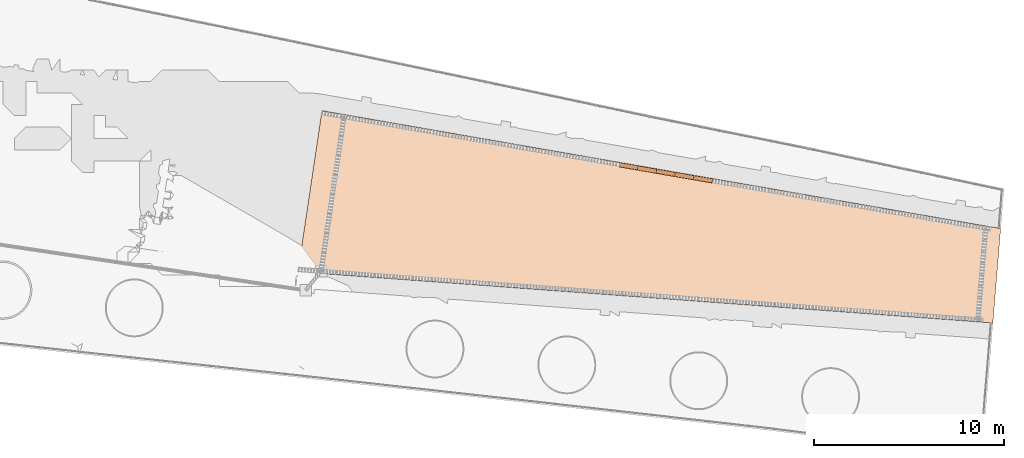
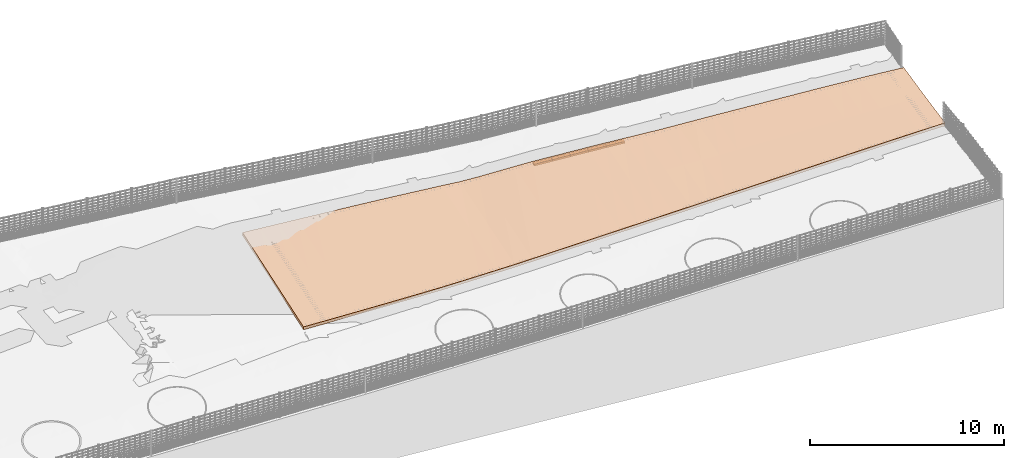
# Not in any storey, part 69 of 72: 5 proxies, 1 geographic element.
"""IFC4 model written with IfcOpenShell, lengths in metres."""

from ifc_helpers import new_model, si_unit, direction, frame, origin_with_axes, place, context, subcontext, project, spatial, polygons, material, element, save


model = new_model("IFC4")

# Units and contexts
model_context = context("Model", 3, precision=1e-05, world=origin_with_axes(), true_north=direction((0.0, 1.0)))
body_context = subcontext(model_context, "Body", "Model", "MODEL_VIEW")
ifc_project = project(units=[si_unit("AREAUNIT", "SQUARE_METRE"), si_unit("VOLUMEUNIT", "CUBIC_METRE"), si_unit("LENGTHUNIT", "METRE")], contexts=[model_context])

# Site
site_placement = place(None, origin_with_axes())
site = spatial("IfcSite", under=ifc_project, at=site_placement, Name="Lares · Rua das Mercês · artigo 4771")

# Geographic element
ifc_material_1 = material(Name="Pavimento rugoso · betão vassourado", Category="paving")
geographic_element_placement = place(site_placement, origin_with_axes())
element("IfcGeographicElement", 1, at=geographic_element_placement, inside=site, material=ifc_material_1, Name="Acesso trapezoidal · 8,60 m no pódio / 5,00 m na rua", ObjectType="Acesso trapezoidal · 8,60 m no pódio / 5,00 m na rua", PredefinedType="USERDEFINED", context=body_context, shape_type="Tessellation", body=[
    polygons([(47.2726756, 7.4551369, 14.6754), (46.6370951, 3.2023687, 14.5034), (48.2651934, 7.3330373, 14.6950979), (47.641404, 3.1285378, 14.5081064), (47.9082561, 11.7079052, 14.8474), (48.8889828, 11.5375368, 14.880832), (49.2577113, 7.2109377, 14.7141288), (48.6457129, 3.0547069, 14.5146605), (49.8697096, 11.3671684, 14.9144106), (50.2502291, 7.088838, 14.7324927), (49.6500219, 2.9808761, 14.5230623), (50.8504364, 11.1968, 14.9494817), (51.242747, 6.9667384, 14.7501895), (50.6543308, 2.9070452, 14.5333117), (51.8311632, 11.0264316, 14.9814926), (52.2352648, 6.8446388, 14.7672194), (51.6586397, 2.8332143, 14.5454088), (52.81189, 10.8560632, 15.0124955), (53.2277827, 6.7225391, 14.7835822), (52.6629486, 2.7593834, 14.5593536), (53.7926168, 10.6856949, 15.0424902), (54.2203005, 6.6004395, 14.8017153), (53.6672575, 2.6855525, 14.575146), (54.7733435, 10.5153265, 15.0714768), (55.2128184, 6.4783398, 14.8244149), (54.6715664, 2.6117216, 14.5927861), (55.7540703, 10.3449581, 15.0994552), (56.2053362, 6.3562402, 14.8550989), (55.6758753, 2.5378907, 14.6282986), (56.7347971, 10.1745897, 15.1193596), (57.1978541, 6.2341406, 14.8857829), (56.6801842, 2.4640598, 14.6654506), (57.7155239, 10.0042213, 15.1392641), (58.1903719, 6.1120409, 14.9164669), (57.6844932, 2.3902289, 14.7070092), (58.6962507, 9.8338529, 15.1591685), (59.1828898, 5.9899413, 14.947151), (58.6888021, 2.316398, 14.7485679), (59.6769775, 9.6634845, 15.1660071), (60.1754076, 5.8678417, 15.0302493), (59.693111, 2.2425671, 14.8057838), (60.6577042, 9.4931162, 15.2273903), (61.1679255, 5.745742, 15.1146175), (60.6974199, 2.1687363, 14.8641032), (61.638431, 9.3227478, 15.3111848), (62.1604433, 5.6236424, 15.1705025), (61.7017288, 2.0949054, 14.9224226), (62.6191578, 9.1523794, 15.3990058), (63.1529612, 5.5015427, 15.2263874), (62.7060377, 2.0210745, 14.980742), (63.5998846, 8.982011, 15.4794087), (64.145479, 5.3794431, 15.2822723), (63.7103466, 1.9472436, 15.0390614), (64.5806114, 8.8116426, 15.5314253), (65.1379969, 5.2573435, 15.3381573), (64.7146555, 1.8734127, 15.0973808), (65.5613382, 8.6412742, 15.583442), (66.1305147, 5.1352438, 15.3940422), (65.7189645, 1.7995818, 15.1557002), (66.5420649, 8.4709059, 15.6354586), (67.1230326, 5.0131442, 15.4499271), (66.7232734, 1.7257509, 15.2140196), (67.5227917, 8.3005375, 15.6806264), (68.1155504, 4.8910446, 15.505812), (67.7275823, 1.65192, 15.272339), (68.5035185, 8.1301691, 15.7192003), (69.1080682, 4.7689449, 15.561697), (68.7318912, 1.5780891, 15.3318854), (69.4842453, 7.9598007, 15.7577742), (70.1005861, 4.6468453, 15.6040598), (69.7362001, 1.5042582, 15.3916386), (70.4649721, 7.7894323, 15.7963481), (71.0931039, 4.5247456, 15.6458906), (70.740509, 1.4304273, 15.4513918), (71.4456989, 7.6190639, 15.8535828), (72.0856218, 4.402646, 15.6911355), (71.7448179, 1.3565965, 15.5074355), (72.4264256, 7.4486956, 15.9152973), (73.0781396, 4.2805464, 15.7447425), (72.7491268, 1.2827656, 15.5651106), (73.4071524, 7.2783272, 15.9732245), (74.0706575, 4.1584467, 15.7983495), (73.7534358, 1.2089347, 15.6230391), (74.3878792, 7.1079588, 16.0274247), (75.0631753, 4.0363471, 15.8519566), (74.7577447, 1.1351038, 15.6809676), (75.368606, 6.9375904, 16.0816249), (76.0556932, 3.9142475, 15.9055636), (75.7620536, 1.0612729, 15.7388962), (76.3493328, 6.767222, 16.1358251), (77.048211, 3.7921478, 15.9591706), (76.7663625, 0.987442, 15.7968247), (77.3300596, 6.5968536, 16.1900253), (78.0407289, 3.6700482, 16.0127777), (77.7706714, 0.9136111, 15.8547533), (78.3107864, 6.4264853, 16.2442255), (79.0332467, 3.5479485, 16.0663847), (78.7749803, 0.8397802, 15.9126818), (79.2915131, 6.2561169, 16.2984257), (80.0257646, 3.4258489, 16.1199917), (79.7792892, 0.7659493, 15.9706103), (80.2722399, 6.0857485, 16.3441265), (81.0182824, 3.3037493, 16.1735987), (80.7835981, 0.6921184, 16.0285389), (81.2529667, 5.9153801, 16.3875319), (82.0108003, 3.1816496, 16.2215866), (81.7879071, 0.6182875, 16.0800639), (82.2336935, 5.7450117, 16.4245337), (82.6933711, 3.0976797, 16.2506754), (82.4785868, 0.5675128, 16.1113058), (82.9081554, 5.6278466, 16.4457879), (83.0033181, 3.05955, 16.2638843), (82.792216, 0.5444567, 16.1254924), (83.2144203, 5.5746433, 16.4554391), (83.4873854, 3.0, 16.2845136), (83.2820339, 0.5084481, 16.1476487), (83.6927368, 5.4915519, 16.4705122), (47.2726756, 7.4551369, 14.4954), (46.6370951, 3.2023687, 14.3234), (48.2651934, 7.3330373, 14.5150979), (47.641404, 3.1285378, 14.3281064), (47.9082561, 11.7079052, 14.6674), (48.8889828, 11.5375368, 14.700832), (49.2577113, 7.2109377, 14.5341288), (48.6457129, 3.0547069, 14.3346605), (49.8697096, 11.3671684, 14.7344106), (50.2502291, 7.088838, 14.5524927), (49.6500219, 2.9808761, 14.3430623), (50.8504364, 11.1968, 14.7694817), (51.242747, 6.9667384, 14.5701895), (50.6543308, 2.9070452, 14.3533117), (51.8311632, 11.0264316, 14.8014926), (52.2352648, 6.8446388, 14.5872194), (51.6586397, 2.8332143, 14.3654088), (52.81189, 10.8560632, 14.8324955), (53.2277827, 6.7225391, 14.6035822), (52.6629486, 2.7593834, 14.3793536), (53.7926168, 10.6856949, 14.8624902), (54.2203005, 6.6004395, 14.6217153), (53.6672575, 2.6855525, 14.395146), (54.7733435, 10.5153265, 14.8914768), (55.2128184, 6.4783398, 14.6444149), (54.6715664, 2.6117216, 14.4127861), (55.7540703, 10.3449581, 14.9194552), (56.2053362, 6.3562402, 14.6750989), (55.6758753, 2.5378907, 14.4482986), (56.7347971, 10.1745897, 14.9393596), (57.1978541, 6.2341406, 14.7057829), (56.6801842, 2.4640598, 14.4854506), (57.7155239, 10.0042213, 14.9592641), (58.1903719, 6.1120409, 14.7364669), (57.6844932, 2.3902289, 14.5270092), (58.6962507, 9.8338529, 14.9791685), (59.1828898, 5.9899413, 14.767151), (58.6888021, 2.316398, 14.5685679), (59.6769775, 9.6634845, 14.9860071), (60.1754076, 5.8678417, 14.8502493), (59.693111, 2.2425671, 14.6257838), (60.6577042, 9.4931162, 15.0473903), (61.1679255, 5.745742, 14.9346175), (60.6974199, 2.1687363, 14.6841032), (61.638431, 9.3227478, 15.1311848), (62.1604433, 5.6236424, 14.9905025), (61.7017288, 2.0949054, 14.7424226), (62.6191578, 9.1523794, 15.2190058), (63.1529612, 5.5015427, 15.0463874), (62.7060377, 2.0210745, 14.800742), (63.5998846, 8.982011, 15.2994087), (64.145479, 5.3794431, 15.1022723), (63.7103466, 1.9472436, 14.8590614), (64.5806114, 8.8116426, 15.3514253), (65.1379969, 5.2573435, 15.1581573), (64.7146555, 1.8734127, 14.9173808), (65.5613382, 8.6412742, 15.403442), (66.1305147, 5.1352438, 15.2140422), (65.7189645, 1.7995818, 14.9757002), (66.5420649, 8.4709059, 15.4554586), (67.1230326, 5.0131442, 15.2699271), (66.7232734, 1.7257509, 15.0340196), (67.5227917, 8.3005375, 15.5006264), (68.1155504, 4.8910446, 15.325812), (67.7275823, 1.65192, 15.092339), (68.5035185, 8.1301691, 15.5392003), (69.1080682, 4.7689449, 15.381697), (68.7318912, 1.5780891, 15.1518854), (69.4842453, 7.9598007, 15.5777742), (70.1005861, 4.6468453, 15.4240598), (69.7362001, 1.5042582, 15.2116386), (70.4649721, 7.7894323, 15.6163481), (71.0931039, 4.5247456, 15.4658906), (70.740509, 1.4304273, 15.2713918), (71.4456989, 7.6190639, 15.6735828), (72.0856218, 4.402646, 15.5111355), (71.7448179, 1.3565965, 15.3274355), (72.4264256, 7.4486956, 15.7352973), (73.0781396, 4.2805464, 15.5647425), (72.7491268, 1.2827656, 15.3851106), (73.4071524, 7.2783272, 15.7932245), (74.0706575, 4.1584467, 15.6183495), (73.7534358, 1.2089347, 15.4430391), (74.3878792, 7.1079588, 15.8474247), (75.0631753, 4.0363471, 15.6719566), (74.7577447, 1.1351038, 15.5009676), (75.368606, 6.9375904, 15.9016249), (76.0556932, 3.9142475, 15.7255636), (75.7620536, 1.0612729, 15.5588962), (76.3493328, 6.767222, 15.9558251), (77.048211, 3.7921478, 15.7791706), (76.7663625, 0.987442, 15.6168247), (77.3300596, 6.5968536, 16.0100253), (78.0407289, 3.6700482, 15.8327777), (77.7706714, 0.9136111, 15.6747533), (78.3107864, 6.4264853, 16.0642255), (79.0332467, 3.5479485, 15.8863847), (78.7749803, 0.8397802, 15.7326818), (79.2915131, 6.2561169, 16.1184257), (80.0257646, 3.4258489, 15.9399917), (79.7792892, 0.7659493, 15.7906103), (80.2722399, 6.0857485, 16.1641265), (81.0182824, 3.3037493, 15.9935987), (80.7835981, 0.6921184, 15.8485389), (81.2529667, 5.9153801, 16.2075319), (82.0108003, 3.1816496, 16.0415866), (81.7879071, 0.6182875, 15.9000639), (82.2336935, 5.7450117, 16.2445337), (82.6933711, 3.0976797, 16.0706754), (82.4785868, 0.5675128, 15.9313058), (82.9081554, 5.6278466, 16.2657879), (83.0033181, 3.05955, 16.0838843), (82.792216, 0.5444567, 15.9454924), (83.2144203, 5.5746433, 16.2754391), (83.4873854, 3.0, 16.1045136), (83.2820339, 0.5084481, 15.9676487), (83.6927368, 5.4915519, 16.2905122)], [[[1, 2, 3]], [[4, 3, 2]], [[1, 6, 5]], [[3, 6, 1]], [[3, 4, 7]], [[8, 7, 4]], [[3, 9, 6]], [[7, 9, 3]], [[7, 8, 10]], [[11, 10, 8]], [[7, 12, 9]], [[10, 12, 7]], [[10, 11, 13]], [[14, 13, 11]], [[15, 12, 10]], [[13, 15, 10]], [[13, 14, 16]], [[17, 16, 14]], [[18, 15, 13]], [[16, 18, 13]], [[16, 17, 19]], [[20, 19, 17]], [[21, 18, 16]], [[19, 21, 16]], [[19, 20, 22]], [[23, 22, 20]], [[24, 21, 19]], [[22, 24, 19]], [[22, 23, 25]], [[26, 25, 23]], [[27, 24, 22]], [[25, 27, 22]], [[25, 26, 28]], [[29, 28, 26]], [[30, 27, 25]], [[28, 30, 25]], [[28, 29, 31]], [[32, 31, 29]], [[33, 30, 28]], [[31, 33, 28]], [[31, 32, 34]], [[35, 34, 32]], [[36, 33, 31]], [[34, 36, 31]], [[34, 35, 37]], [[38, 37, 35]], [[39, 36, 34]], [[37, 39, 34]], [[40, 37, 38]], [[38, 41, 40]], [[37, 42, 39]], [[37, 40, 42]], [[43, 40, 41]], [[41, 44, 43]], [[40, 45, 42]], [[40, 43, 45]], [[46, 43, 44]], [[44, 47, 46]], [[43, 48, 45]], [[43, 46, 48]], [[49, 46, 47]], [[47, 50, 49]], [[46, 51, 48]], [[49, 51, 46]], [[52, 49, 50]], [[53, 52, 50]], [[54, 51, 49]], [[52, 54, 49]], [[55, 52, 53]], [[56, 55, 53]], [[57, 54, 52]], [[55, 57, 52]], [[58, 55, 56]], [[59, 58, 56]], [[60, 57, 55]], [[58, 60, 55]], [[61, 58, 59]], [[62, 61, 59]], [[63, 60, 58]], [[58, 61, 63]], [[64, 61, 62]], [[65, 64, 62]], [[66, 63, 61]], [[61, 64, 66]], [[64, 65, 67]], [[68, 67, 65]], [[69, 66, 64]], [[64, 67, 69]], [[67, 68, 70]], [[68, 71, 70]], [[72, 69, 67]], [[70, 72, 67]], [[70, 71, 73]], [[71, 74, 73]], [[70, 75, 72]], [[73, 75, 70]], [[73, 74, 76]], [[74, 77, 76]], [[73, 78, 75]], [[76, 78, 73]], [[79, 76, 77]], [[77, 80, 79]], [[76, 81, 78]], [[79, 81, 76]], [[82, 79, 80]], [[80, 83, 82]], [[84, 81, 79]], [[82, 84, 79]], [[85, 82, 83]], [[83, 86, 85]], [[87, 84, 82]], [[85, 87, 82]], [[88, 85, 86]], [[86, 89, 88]], [[90, 87, 85]], [[88, 90, 85]], [[91, 88, 89]], [[89, 92, 91]], [[93, 90, 88]], [[91, 93, 88]], [[94, 91, 92]], [[92, 95, 94]], [[96, 93, 91]], [[94, 96, 91]], [[97, 94, 95]], [[95, 98, 97]], [[99, 96, 94]], [[97, 99, 94]], [[100, 97, 98]], [[98, 101, 100]], [[102, 99, 97]], [[100, 102, 97]], [[103, 100, 101]], [[101, 104, 103]], [[105, 102, 100]], [[103, 105, 100]], [[106, 103, 104]], [[104, 107, 106]], [[108, 105, 103]], [[106, 108, 103]], [[106, 107, 109]], [[110, 109, 107]], [[111, 108, 106]], [[109, 111, 106]], [[109, 110, 112]], [[113, 112, 110]], [[114, 111, 109]], [[112, 114, 109]], [[112, 113, 115]], [[116, 115, 113]], [[117, 114, 112]], [[115, 117, 112]], [[120, 119, 118]], [[119, 120, 121]], [[122, 123, 118]], [[118, 123, 120]], [[124, 121, 120]], [[121, 124, 125]], [[123, 126, 120]], [[120, 126, 124]], [[127, 125, 124]], [[125, 127, 128]], [[126, 129, 124]], [[124, 129, 127]], [[130, 128, 127]], [[128, 130, 131]], [[127, 129, 132]], [[127, 132, 130]], [[133, 131, 130]], [[131, 133, 134]], [[130, 132, 135]], [[130, 135, 133]], [[136, 134, 133]], [[134, 136, 137]], [[133, 135, 138]], [[133, 138, 136]], [[139, 137, 136]], [[137, 139, 140]], [[136, 138, 141]], [[136, 141, 139]], [[142, 140, 139]], [[140, 142, 143]], [[139, 141, 144]], [[139, 144, 142]], [[145, 143, 142]], [[143, 145, 146]], [[142, 144, 147]], [[142, 147, 145]], [[148, 146, 145]], [[146, 148, 149]], [[145, 147, 150]], [[145, 150, 148]], [[151, 149, 148]], [[149, 151, 152]], [[148, 150, 153]], [[148, 153, 151]], [[154, 152, 151]], [[152, 154, 155]], [[151, 153, 156]], [[151, 156, 154]], [[155, 154, 157]], [[157, 158, 155]], [[156, 159, 154]], [[159, 157, 154]], [[158, 157, 160]], [[160, 161, 158]], [[159, 162, 157]], [[162, 160, 157]], [[161, 160, 163]], [[163, 164, 161]], [[162, 165, 160]], [[165, 163, 160]], [[164, 163, 166]], [[166, 167, 164]], [[165, 168, 163]], [[163, 168, 166]], [[167, 166, 169]], [[167, 169, 170]], [[166, 168, 171]], [[166, 171, 169]], [[170, 169, 172]], [[170, 172, 173]], [[169, 171, 174]], [[169, 174, 172]], [[173, 172, 175]], [[173, 175, 176]], [[172, 174, 177]], [[172, 177, 175]], [[176, 175, 178]], [[176, 178, 179]], [[175, 177, 180]], [[180, 178, 175]], [[179, 178, 181]], [[179, 181, 182]], [[178, 180, 183]], [[183, 181, 178]], [[184, 182, 181]], [[182, 184, 185]], [[181, 183, 186]], [[186, 184, 181]], [[187, 185, 184]], [[187, 188, 185]], [[184, 186, 189]], [[184, 189, 187]], [[190, 188, 187]], [[190, 191, 188]], [[189, 192, 187]], [[187, 192, 190]], [[193, 191, 190]], [[193, 194, 191]], [[192, 195, 190]], [[190, 195, 193]], [[194, 193, 196]], [[196, 197, 194]], [[195, 198, 193]], [[193, 198, 196]], [[197, 196, 199]], [[199, 200, 197]], [[196, 198, 201]], [[196, 201, 199]], [[200, 199, 202]], [[202, 203, 200]], [[199, 201, 204]], [[199, 204, 202]], [[203, 202, 205]], [[205, 206, 203]], [[202, 204, 207]], [[202, 207, 205]], [[206, 205, 208]], [[208, 209, 206]], [[205, 207, 210]], [[205, 210, 208]], [[209, 208, 211]], [[211, 212, 209]], [[208, 210, 213]], [[208, 213, 211]], [[212, 211, 214]], [[214, 215, 212]], [[211, 213, 216]], [[211, 216, 214]], [[215, 214, 217]], [[217, 218, 215]], [[214, 216, 219]], [[214, 219, 217]], [[218, 217, 220]], [[220, 221, 218]], [[217, 219, 222]], [[217, 222, 220]], [[221, 220, 223]], [[223, 224, 221]], [[220, 222, 225]], [[220, 225, 223]], [[226, 224, 223]], [[224, 226, 227]], [[223, 225, 228]], [[223, 228, 226]], [[229, 227, 226]], [[227, 229, 230]], [[226, 228, 231]], [[226, 231, 229]], [[232, 230, 229]], [[230, 232, 233]], [[229, 231, 234]], [[229, 234, 232]], [[1, 118, 119, 2]], [[2, 119, 121, 4]], [[6, 123, 122, 5]], [[5, 122, 118, 1]], [[4, 121, 125, 8]], [[9, 126, 123, 6]], [[8, 125, 128, 11]], [[12, 129, 126, 9]], [[11, 128, 131, 14]], [[15, 132, 129, 12]], [[14, 131, 134, 17]], [[18, 135, 132, 15]], [[17, 134, 137, 20]], [[21, 138, 135, 18]], [[20, 137, 140, 23]], [[24, 141, 138, 21]], [[23, 140, 143, 26]], [[27, 144, 141, 24]], [[26, 143, 146, 29]], [[30, 147, 144, 27]], [[29, 146, 149, 32]], [[33, 150, 147, 30]], [[32, 149, 152, 35]], [[36, 153, 150, 33]], [[35, 152, 155, 38]], [[39, 156, 153, 36]], [[38, 155, 158, 41]], [[42, 159, 156, 39]], [[41, 158, 161, 44]], [[45, 162, 159, 42]], [[44, 161, 164, 47]], [[48, 165, 162, 45]], [[47, 164, 167, 50]], [[51, 168, 165, 48]], [[50, 167, 170, 53]], [[54, 171, 168, 51]], [[53, 170, 173, 56]], [[57, 174, 171, 54]], [[56, 173, 176, 59]], [[60, 177, 174, 57]], [[59, 176, 179, 62]], [[63, 180, 177, 60]], [[62, 179, 182, 65]], [[66, 183, 180, 63]], [[65, 182, 185, 68]], [[69, 186, 183, 66]], [[68, 185, 188, 71]], [[72, 189, 186, 69]], [[71, 188, 191, 74]], [[75, 192, 189, 72]], [[74, 191, 194, 77]], [[78, 195, 192, 75]], [[77, 194, 197, 80]], [[81, 198, 195, 78]], [[80, 197, 200, 83]], [[84, 201, 198, 81]], [[83, 200, 203, 86]], [[87, 204, 201, 84]], [[86, 203, 206, 89]], [[90, 207, 204, 87]], [[89, 206, 209, 92]], [[93, 210, 207, 90]], [[92, 209, 212, 95]], [[96, 213, 210, 93]], [[95, 212, 215, 98]], [[99, 216, 213, 96]], [[98, 215, 218, 101]], [[102, 219, 216, 99]], [[101, 218, 221, 104]], [[105, 222, 219, 102]], [[104, 221, 224, 107]], [[108, 225, 222, 105]], [[107, 224, 227, 110]], [[111, 228, 225, 108]], [[110, 227, 230, 113]], [[114, 231, 228, 111]], [[116, 233, 232, 115]], [[113, 230, 233, 116]], [[117, 234, 231, 114]], [[115, 232, 234, 117]]]),
])

# Proxies
ifc_material_2 = material(Name="Brita drenante", Category="stone")
proxy_1_placement = place(site_placement, frame((0.0, 0.0, 0.0), z_axis=(0.0, 0.0, 1.0), x_axis=(1.0, -1.03767253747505e-17, 0.0)))
element("IfcBuildingElementProxy", 2, at=proxy_1_placement, inside=site, material=ifc_material_2, Name="Acesso · dreno lateral raso · leito drenante", ObjectType="Acesso · dreno lateral raso · leito drenante", PredefinedType="USERDEFINED", context=body_context, shape_type="Tessellation", body=[
    polygons([(63.5645015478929, 8.74469265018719, 15.3300349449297), (63.6021532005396, 8.96144678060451, 15.3300349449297), (64.5830867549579, 8.79105201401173, 15.3820631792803), (64.5454351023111, 8.5742978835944, 15.3820631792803), (63.5645015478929, 8.74469265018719, 15.4450349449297), (63.6021532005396, 8.96144678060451, 15.4450349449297), (64.5830867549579, 8.79105201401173, 15.4970631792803), (64.5454351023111, 8.5742978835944, 15.4970631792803)], [[[4, 3, 2, 1]], [[5, 6, 7, 8]], [[1, 2, 6, 5]], [[2, 3, 7, 6]], [[3, 4, 8, 7]], [[4, 1, 5, 8]]]),
])
proxy_2_placement = place(site_placement, frame((0.0, 0.0, 0.0), z_axis=(0.0, 0.0, 1.0), x_axis=(1.0, -1.03767253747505e-17, 0.0)))
element("IfcBuildingElementProxy", 3, at=proxy_2_placement, inside=site, material=ifc_material_2, Name="Acesso · dreno lateral raso · leito drenante", ObjectType="Acesso · dreno lateral raso · leito drenante", PredefinedType="USERDEFINED", context=body_context, shape_type="Tessellation", body=[
    polygons([(64.5454351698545, 8.57429787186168, 15.3820631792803), (64.5830866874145, 8.79105202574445, 15.3820631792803), (65.5640262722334, 8.62065684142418, 15.4340917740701), (65.5263747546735, 8.40390268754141, 15.4340917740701), (64.5454351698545, 8.57429787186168, 15.4970631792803), (64.5830866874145, 8.79105202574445, 15.4970631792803), (65.5640262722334, 8.62065684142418, 15.5490917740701), (65.5263747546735, 8.40390268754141, 15.5490917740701)], [[[4, 3, 2, 1]], [[5, 6, 7, 8]], [[1, 2, 6, 5]], [[2, 3, 7, 6]], [[3, 4, 8, 7]], [[4, 1, 5, 8]]]),
])
proxy_3_placement = place(site_placement, frame((0.0, 0.0, 0.0), z_axis=(0.0, 0.0, 1.0), x_axis=(1.0, -1.03767253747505e-17, 0.0)))
element("IfcBuildingElementProxy", 4, at=proxy_3_placement, inside=site, material=ifc_material_2, Name="Acesso · dreno lateral raso · leito drenante", ObjectType="Acesso · dreno lateral raso · leito drenante", PredefinedType="USERDEFINED", context=body_context, shape_type="Tessellation", body=[
    polygons([(65.5263748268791, 8.40390267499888, 15.4340917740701), (65.5640262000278, 8.62065685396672, 15.4340917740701), (66.5449720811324, 8.45026124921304, 15.4861207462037), (66.5073207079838, 8.2335070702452, 15.4861207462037), (65.5263748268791, 8.40390267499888, 15.5490917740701), (65.5640262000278, 8.62065685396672, 15.5490917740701), (66.5449720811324, 8.45026124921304, 15.6011207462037), (66.5073207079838, 8.2335070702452, 15.6011207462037)], [[[4, 3, 2, 1]], [[5, 6, 7, 8]], [[1, 2, 6, 5]], [[2, 3, 7, 6]], [[3, 4, 8, 7]], [[4, 1, 5, 8]]]),
])
proxy_4_placement = place(site_placement, frame((0.0, 0.0, 0.0), z_axis=(0.0, 0.0, 1.0), x_axis=(1.0, -1.03767253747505e-17, 0.0)))
element("IfcBuildingElementProxy", 5, at=proxy_4_placement, inside=site, material=ifc_material_2, Name="Acesso · dreno lateral raso · leito drenante", ObjectType="Acesso · dreno lateral raso · leito drenante", PredefinedType="USERDEFINED", context=body_context, shape_type="Tessellation", body=[
    polygons([(66.50732078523, 8.23350705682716, 15.4861207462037), (66.5449720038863, 8.45026126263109, 15.4861207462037), (67.5259244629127, 8.27986523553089, 15.5326943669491), (67.4882732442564, 8.06311102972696, 15.5326943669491), (66.50732078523, 8.23350705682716, 15.6011207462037), (66.5449720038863, 8.45026126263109, 15.6011207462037), (67.5259244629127, 8.27986523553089, 15.6476943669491), (67.4882732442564, 8.06311102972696, 15.6476943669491)], [[[4, 3, 2, 1]], [[5, 6, 7, 8]], [[1, 2, 6, 5]], [[2, 3, 7, 6]], [[3, 4, 8, 7]], [[4, 1, 5, 8]]]),
])
proxy_5_placement = place(site_placement, frame((0.0, 0.0, 0.0), z_axis=(0.0, 0.0, 1.0), x_axis=(1.0, -1.03767253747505e-17, 0.0)))
element("IfcBuildingElementProxy", 6, at=proxy_5_placement, inside=site, material=ifc_material_2, Name="Acesso · dreno lateral raso · leito drenante", ObjectType="Acesso · dreno lateral raso · leito drenante", PredefinedType="USERDEFINED", context=body_context, shape_type="Tessellation", body=[
    polygons([(67.4882733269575, 8.06311101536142, 15.5326943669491), (67.5259243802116, 8.27986524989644, 15.5326943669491), (68.5068837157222, 8.10946879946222, 15.5712781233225), (68.4692326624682, 7.8927145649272, 15.5712781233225), (67.4882733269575, 8.06311101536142, 15.6476943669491), (67.5259243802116, 8.27986524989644, 15.6476943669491), (68.5068837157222, 8.10946879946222, 15.6862781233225), (68.4692326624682, 7.8927145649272, 15.6862781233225)], [[[4, 3, 2, 1]], [[5, 6, 7, 8]], [[1, 2, 6, 5]], [[2, 3, 7, 6]], [[3, 4, 8, 7]], [[4, 1, 5, 8]]]),
])

save(model, "model.ifc")
